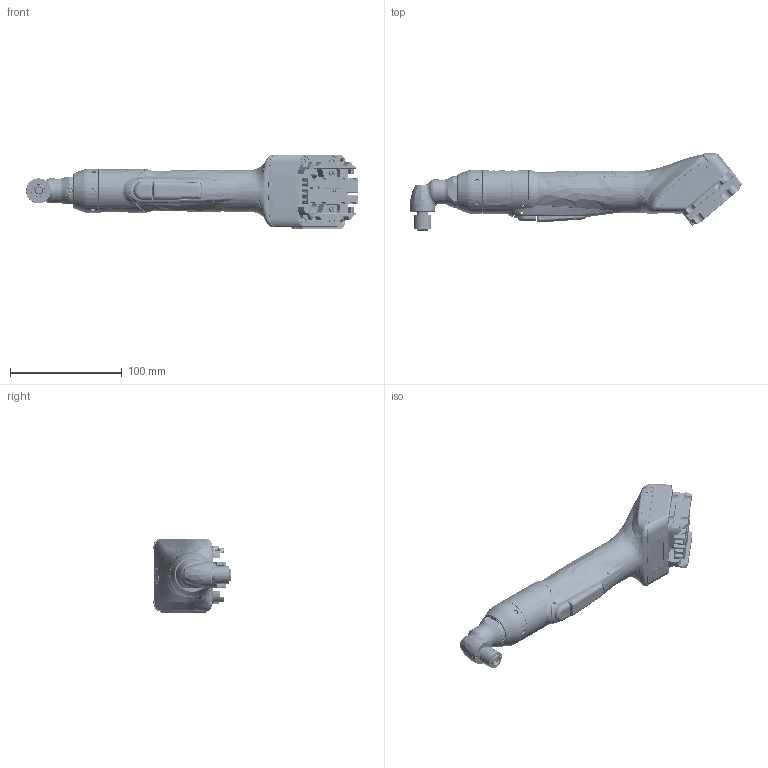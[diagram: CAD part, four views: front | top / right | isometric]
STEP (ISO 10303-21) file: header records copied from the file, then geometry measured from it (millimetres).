
FILE_DESCRIPTION((''),'2;1');
FILE_NAME('6151660940','2019-03-14T11:08:32',('greextsd'),(''),'CREO PARAMETRIC BY PTC INC, 2018260','CREO PARAMETRIC BY PTC INC, 2018260','');
FILE_SCHEMA(('AUTOMOTIVE_DESIGN { 1 0 10303 214 1 1 1 1 }'));
Products named in the file (1): 6151660940
Bounding box: 296.8 x 69.11 x 67.01 mm (x, y, z)
Volume: 148268.8 mm3; surface area: 112340 mm2
Topology: 7 solids, 7 shells, 7511 faces, 19181 edges, 11865 vertices
Faces by surface type: bspline 2541, plane 2395, cylinder 1313, extrusion 483, cone 454, torus 236, sphere 68, revolution 21
Entity records: 511471 total; most frequent: CARTESIAN_POINT 299995, ORIENTED_EDGE 38292, DIRECTION 24280, EDGE_CURVE 19146, VERTEX_POINT 11859, B_SPLINE_CURVE_WITH_KNOTS 8662, AXIS2_PLACEMENT_3D 8324, EDGE_LOOP 7857
